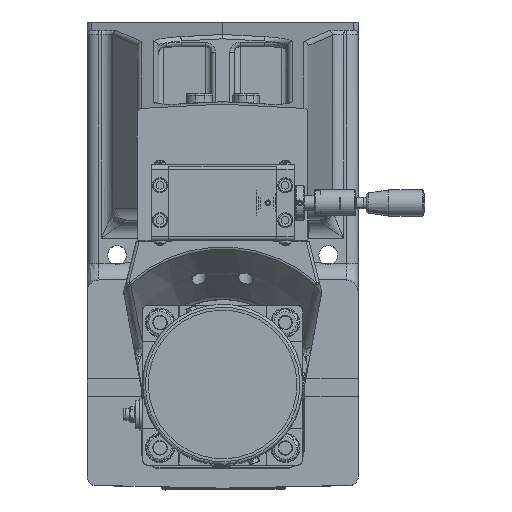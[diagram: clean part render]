
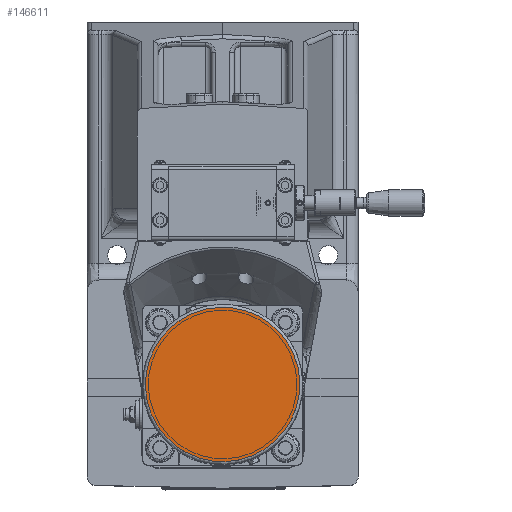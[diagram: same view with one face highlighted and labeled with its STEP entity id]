
A CAD part, top view. The second image highlights one B-rep face of the part: STEP entity #146611.
In plain terms, the highlighted planar face has unit normal (0, 0, 1).
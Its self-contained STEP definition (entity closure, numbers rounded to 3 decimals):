
#38246=PLANE('',#154784);
#45264=FACE_OUTER_BOUND('',#53426,.T.);
#53426=EDGE_LOOP('',(#113161));
#59294=CIRCLE('',#154783,53.);
#66333=VERTEX_POINT('',#219530);
#83201=EDGE_CURVE('',#66333,#66333,#59294,.T.);
#113161=ORIENTED_EDGE('',*,*,#83201,.F.);
#146611=ADVANCED_FACE('',(#45264),#38246,.F.);
#154783=AXIS2_PLACEMENT_3D('',#219531,#173105,#173106);
#154784=AXIS2_PLACEMENT_3D('',#219532,#173107,#173108);
#173105=DIRECTION('center_axis',(0.,0.,
-1.));
#173106=DIRECTION('ref_axis',(-0.924,-0.383,0.));
#173107=DIRECTION('center_axis',(0.,0.,
-1.));
#173108=DIRECTION('ref_axis',(-0.924,-0.383,0.));
#219530=CARTESIAN_POINT('',(48.966,-11.718,997.75));
#219531=CARTESIAN_POINT('Origin',(0.,-32.,
997.75));
#219532=CARTESIAN_POINT('Origin',(0.,-32.,
997.75));
